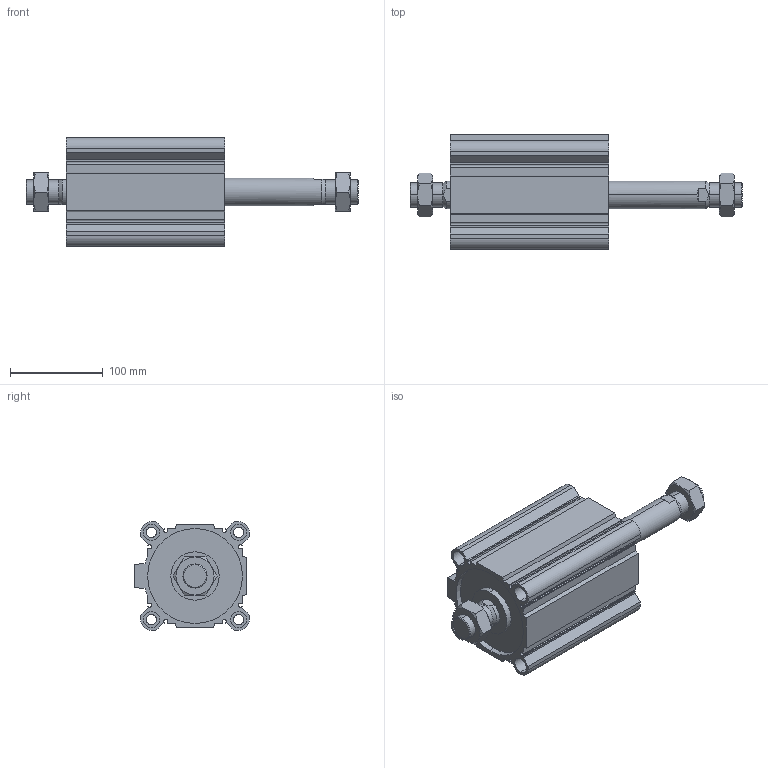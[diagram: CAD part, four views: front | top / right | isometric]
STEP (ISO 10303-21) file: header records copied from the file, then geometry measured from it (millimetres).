
FILE_DESCRIPTION (( 'STEP AP203' ), '1' );
FILE_NAME ('CCMB100-100M-P.STEP', '2020-08-10T12:01:07', ( '' ), ( '' ), 'SwSTEP 2.0', 'SolidWorks 2019', '' );
FILE_SCHEMA (( 'CONFIG_CONTROL_DESIGN' ));
Length unit declared in the file: millimetre
Products named in the file (1): CCMB100-100M-P
Bounding box: 357.5 x 123.5 x 117 mm (x, y, z)
Volume: 1334875.1 mm3; surface area: 287266.4 mm2
Topology: 4 solids, 4 shells, 230 faces, 568 edges, 364 vertices
Faces by surface type: plane 106, cylinder 80, cone 44
Entity records: 7879 total; most frequent: CARTESIAN_POINT 2279, DIRECTION 1166, ORIENTED_EDGE 1136, EDGE_CURVE 568, AXIS2_PLACEMENT_3D 431, VERTEX_POINT 364, LINE 304, VECTOR 304
